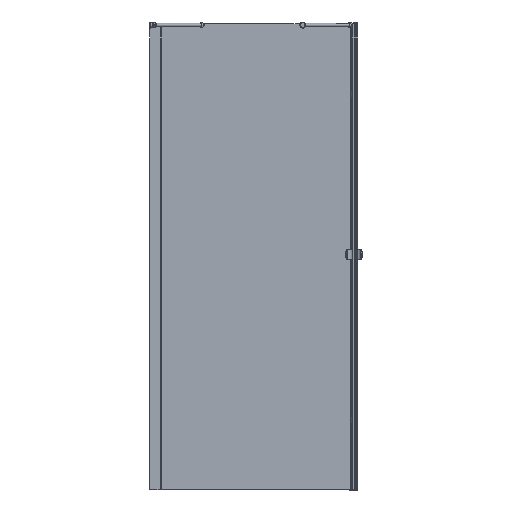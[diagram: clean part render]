
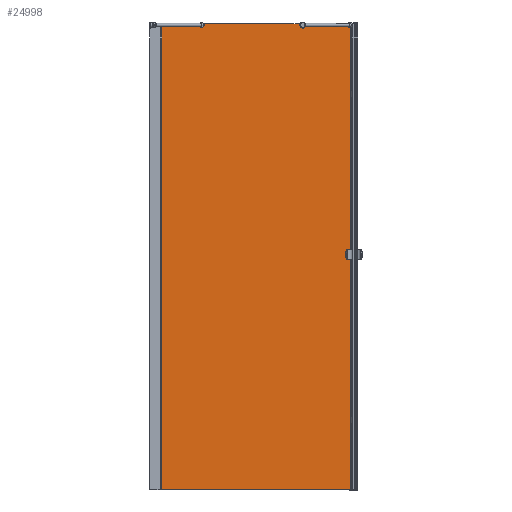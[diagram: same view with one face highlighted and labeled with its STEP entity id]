
A CAD part, left-side view. The second image highlights one B-rep face of the part: STEP entity #24998.
In plain terms, the highlighted planar face has unit normal (-1, 0, 0).
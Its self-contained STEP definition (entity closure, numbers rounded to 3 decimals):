
#1729=LINE($,#55543,#3928);
#1764=LINE($,#55656,#3963);
#2106=LINE($,#56693,#4305);
#2120=LINE($,#56726,#4319);
#2121=LINE($,#56727,#4320);
#3928=VECTOR($,#31884,627.423);
#3963=VECTOR($,#31973,162.716);
#4305=VECTOR($,#32757,807.419);
#4319=VECTOR($,#32779,2000.);
#4320=VECTOR($,#32780,1998.591);
#6479=FACE_OUTER_BOUND($,#7942,.T.);
#7942=EDGE_LOOP($,(#20133,#20134,#20135,#20136,#20137,#20138,#20139));
#8947=CIRCLE($,#26812,10.);
#9011=CIRCLE($,#26956,2.);
#10754=VERTEX_POINT($,#55496);
#10756=VERTEX_POINT($,#55500);
#10766=VERTEX_POINT($,#55542);
#10817=VERTEX_POINT($,#55654);
#10992=VERTEX_POINT($,#56266);
#10993=VERTEX_POINT($,#56268);
#11090=VERTEX_POINT($,#56692);
#13748=EDGE_CURVE($,#10754,#10756,#8947,.T.);
#13767=EDGE_CURVE($,#10766,#10754,#1729,.T.);
#13828=EDGE_CURVE($,#10756,#10817,#1764,.T.);
#14063=EDGE_CURVE($,#10993,#10992,#9011,.T.);
#14255=EDGE_CURVE($,#10993,#11090,#2106,.T.);
#14272=EDGE_CURVE($,#10817,#11090,#2120,.T.);
#14273=EDGE_CURVE($,#10992,#10766,#2121,.T.);
#20133=ORIENTED_EDGE($,*,*,#13748,.T.);
#20134=ORIENTED_EDGE($,*,*,#13828,.T.);
#20135=ORIENTED_EDGE($,*,*,#14272,.T.);
#20136=ORIENTED_EDGE($,*,*,#14255,.F.);
#20137=ORIENTED_EDGE($,*,*,#14063,.T.);
#20138=ORIENTED_EDGE($,*,*,#14273,.T.);
#20139=ORIENTED_EDGE($,*,*,#13767,.T.);
#22497=PLANE($,#27081);
#24998=ADVANCED_FACE($,(#6479),#22497,.T.);
#26812=AXIS2_PLACEMENT_3D($,#55502,#31835,#31836);
#26956=AXIS2_PLACEMENT_3D($,#56269,#32359,#32360);
#27081=AXIS2_PLACEMENT_3D($,#56725,#32777,#32778);
#31835=DIRECTION('center_axis',(1.,0.,0.));
#31836=DIRECTION('ref_axis',(0.,-1.,0.));
#31884=DIRECTION($,(0.,1.,0.));
#31973=DIRECTION($,(0.,1.,0.));
#32359=DIRECTION('center_axis',(1.,0.,0.));
#32360=DIRECTION('ref_axis',(0.,0.707,0.707));
#32757=DIRECTION($,(0.,1.,0.));
#32777=DIRECTION('center_axis',(-1.,0.,0.));
#32778=DIRECTION('ref_axis',(0.,1.,0.));
#32779=DIRECTION($,(0.,0.,-1.));
#32780=DIRECTION($,(0.,0.,1.));
#55496=CARTESIAN_POINT('',(1238.019,613.379,1485.944));
#55500=CARTESIAN_POINT('',(1238.019,631.24,1485.944));
#55502=CARTESIAN_POINT('Origin',(1238.019,622.309,1481.444));
#55542=CARTESIAN_POINT('',(1238.019,-14.044,1485.944));
#55543=CARTESIAN_POINT($,(1238.019,-19.044,1485.944));
#55654=CARTESIAN_POINT('',(1238.019,793.956,1485.944));
#55656=CARTESIAN_POINT($,(1238.019,-19.044,1485.944));
#56266=CARTESIAN_POINT('',(1238.019,-14.044,-512.646));
#56268=CARTESIAN_POINT('',(1238.019,-13.463,-514.056));
#56269=CARTESIAN_POINT('Origin',(1238.019,-15.463,-514.056));
#56692=CARTESIAN_POINT('',(1238.019,793.956,-514.056));
#56693=CARTESIAN_POINT($,(1238.019,-19.044,-514.056));
#56725=CARTESIAN_POINT('Origin',(1238.019,-19.044,1485.944));
#56726=CARTESIAN_POINT($,(1238.019,793.956,1485.944));
#56727=CARTESIAN_POINT($,(1238.019,-14.044,1485.944));
